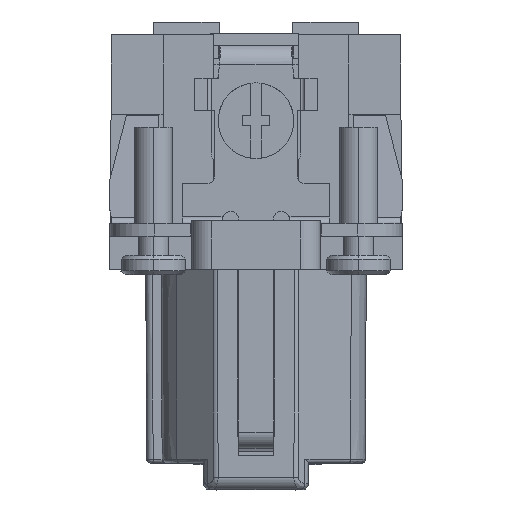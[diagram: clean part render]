
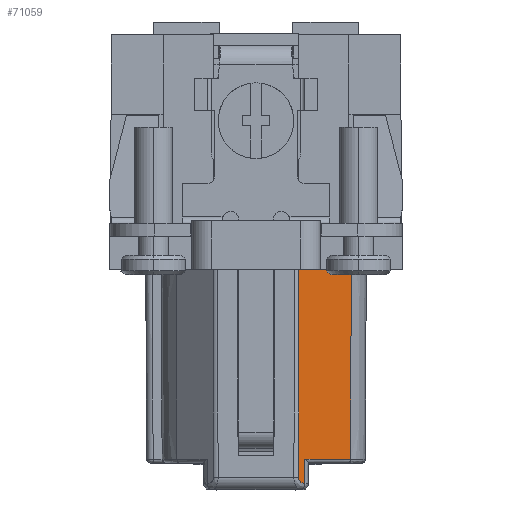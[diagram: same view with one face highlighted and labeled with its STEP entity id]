
A CAD part, left-side view. The second image highlights one B-rep face of the part: STEP entity #71059.
In plain terms, the highlighted planar face has unit normal (-0.707, -0.707, -0.005).
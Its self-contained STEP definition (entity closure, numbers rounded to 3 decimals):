
#312 = CARTESIAN_POINT ( 'NONE',  ( -27.368, -3.311, 0.956 ) ) ;
#1973 = CARTESIAN_POINT ( 'NONE',  ( -23.187, -7.504, 2.398 ) ) ;
#2415 = CARTESIAN_POINT ( 'NONE',  ( -28.315, -2.485, 17.2 ) ) ;
#5202 = FACE_OUTER_BOUND ( 'NONE', #67395, .T. ) ;
#5610 = CARTESIAN_POINT ( 'NONE',  ( -27.369, -3.311, 0.995 ) ) ;
#6858 = PLANE ( 'NONE',  #66230 ) ;
#9512 = EDGE_CURVE ( 'NONE', #78159, #45499, #31687, .T. ) ;
#9728 = EDGE_CURVE ( 'NONE', #29014, #16809, #71392, .T. ) ;
#13007 = CARTESIAN_POINT ( 'NONE',  ( -23.317, -7.374, 2.398 ) ) ;
#13106 = CARTESIAN_POINT ( 'NONE',  ( -27.1, -3.576, 0.549 ) ) ;
#14731 = ORIENTED_EDGE ( 'NONE', *, *, #49565, .F. ) ;
#14735 = EDGE_CURVE ( 'NONE', #26988, #29014, #24233, .T. ) ;
#16809 = VERTEX_POINT ( 'NONE', #36826 ) ;
#18417 = CARTESIAN_POINT ( 'NONE',  ( -27.369, -3.311, 0.995 ) ) ;
#20295 = DIRECTION ( 'NONE',  ( -0.005, -0.002, 1. ) ) ;
#20769 = CARTESIAN_POINT ( 'NONE',  ( -28.315, -2.485, 17.2 ) ) ;
#22861 = CARTESIAN_POINT ( 'NONE',  ( -27.454, -3.346, 17.2 ) ) ;
#24233 = LINE ( 'NONE', #50054, #39050 ) ;
#24628 = VECTOR ( 'NONE', #53281, 1000. ) ;
#26966 = CARTESIAN_POINT ( 'NONE',  ( -27.369, -3.311, 0.995 ) ) ;
#26988 = VERTEX_POINT ( 'NONE', #45562 ) ;
#29014 = VERTEX_POINT ( 'NONE', #13007 ) ;
#31687 =( BOUNDED_CURVE ( )  B_SPLINE_CURVE ( 3, ( #37816, #82518, #50059, #50602, #13106, #81965, #43649, #57623, #70212, #312, #5610 ),
 .UNSPECIFIED., .F., .F. ) 
 B_SPLINE_CURVE_WITH_KNOTS ( ( 4, 1, 1, 1, 1, 1, 1, 1, 4 ),
 ( 0., 0.002, 0.171, 0.339, 0.493, 0.627, 0.748, 0.866, 1. ),
 .UNSPECIFIED. ) 
 CURVE ( )  GEOMETRIC_REPRESENTATION_ITEM ( )  RATIONAL_B_SPLINE_CURVE ( ( 1.17, 1.17, 1.17, 1.17, 1.17, 1.17, 1.17, 1.17, 1.17, 1.17, 1.17 ) ) 
 REPRESENTATION_ITEM ( '' )  );
#33053 = ORIENTED_EDGE ( 'NONE', *, *, #14735, .F. ) ;
#36826 = CARTESIAN_POINT ( 'NONE',  ( -26.873, -3.817, 2.398 ) ) ;
#37814 = LINE ( 'NONE', #45083, #60818 ) ;
#37816 = CARTESIAN_POINT ( 'NONE',  ( -26.866, -3.81, 0.497 ) ) ;
#39050 = VECTOR ( 'NONE', #52252, 1000. ) ;
#41536 = LINE ( 'NONE', #2415, #24628 ) ;
#43649 = CARTESIAN_POINT ( 'NONE',  ( -27.27, -3.408, 0.693 ) ) ;
#45083 = CARTESIAN_POINT ( 'NONE',  ( -26.928, -3.872, 17.2 ) ) ;
#45191 = DIRECTION ( 'NONE',  ( -0.707, 0.707, 0. ) ) ;
#45499 = VERTEX_POINT ( 'NONE', #18417 ) ;
#45562 = CARTESIAN_POINT ( 'NONE',  ( -23.372, -7.428, 17.2 ) ) ;
#46061 = VECTOR ( 'NONE', #20295, 1000. ) ;
#47557 = ORIENTED_EDGE ( 'NONE', *, *, #63454, .F. ) ;
#49565 = EDGE_CURVE ( 'NONE', #45499, #75085, #61051, .T. ) ;
#50054 = CARTESIAN_POINT ( 'NONE',  ( -23.372, -7.428, 17.2 ) ) ;
#50059 = CARTESIAN_POINT ( 'NONE',  ( -26.907, -3.769, 0.497 ) ) ;
#50602 = CARTESIAN_POINT ( 'NONE',  ( -26.988, -3.688, 0.507 ) ) ;
#51325 = DIRECTION ( 'NONE',  ( 0.707, 0.707, 0.005 ) ) ;
#52252 = DIRECTION ( 'NONE',  ( 0.004, 0.004, -1. ) ) ;
#53281 = DIRECTION ( 'NONE',  ( -0.707, 0.707, 0. ) ) ;
#57623 = CARTESIAN_POINT ( 'NONE',  ( -27.323, -3.355, 0.781 ) ) ;
#59056 = DIRECTION ( 'NONE',  ( 0.004, 0.004, -1. ) ) ;
#60818 = VECTOR ( 'NONE', #59056, 1000. ) ;
#61051 = LINE ( 'NONE', #26966, #46061 ) ;
#63454 = EDGE_CURVE ( 'NONE', #16809, #78159, #37814, .T. ) ;
#66230 = AXIS2_PLACEMENT_3D ( 'NONE', #20769, #51325, #45191 ) ;
#67395 = EDGE_LOOP ( 'NONE', ( #47557, #69803, #33053, #70532, #14731, #68512 ) ) ;
#68512 = ORIENTED_EDGE ( 'NONE', *, *, #9512, .F. ) ;
#69803 = ORIENTED_EDGE ( 'NONE', *, *, #9728, .F. ) ;
#70212 = CARTESIAN_POINT ( 'NONE',  ( -27.359, -3.32, 0.882 ) ) ;
#70532 = ORIENTED_EDGE ( 'NONE', *, *, #77478, .T. ) ;
#71059 = ADVANCED_FACE ( 'NONE', ( #5202 ), #6858, .F. ) ;
#71392 = LINE ( 'NONE', #1973, #81342 ) ;
#75085 = VERTEX_POINT ( 'NONE', #22861 ) ;
#77478 = EDGE_CURVE ( 'NONE', #26988, #75085, #41536, .T. ) ;
#78159 = VERTEX_POINT ( 'NONE', #80022 ) ;
#79125 = DIRECTION ( 'NONE',  ( -0.707, 0.707, 0. ) ) ;
#80022 = CARTESIAN_POINT ( 'NONE',  ( -26.866, -3.81, 0.497 ) ) ;
#81342 = VECTOR ( 'NONE', #79125, 1000. ) ;
#81965 = CARTESIAN_POINT ( 'NONE',  ( -27.196, -3.481, 0.614 ) ) ;
#82518 = CARTESIAN_POINT ( 'NONE',  ( -26.866, -3.81, 0.497 ) ) ;
